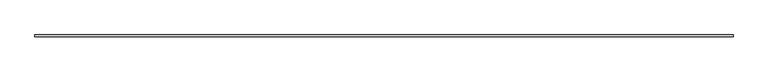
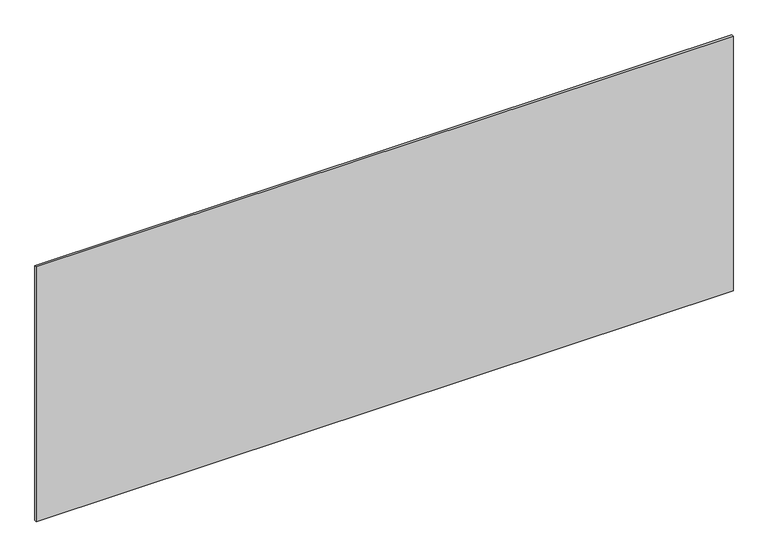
"""IFC4 building model written with IfcOpenShell, lengths in millimetres: plate geometry, システム パネル : 標準."""

from ifc_helpers import new_model, si_unit, origin, origin_with_axes, place, context, project, spatial, polyline, outline, extrude, source, transform, mapped, element, save


def plate_d77b17ee(model_context):
    return source(origin(), model_context, "Body", "SweptSolid", [
        extrude(outline(polyline([(1715.0, -5.0), (-1715.0, -5.0), (-1715.0, 5.0), (1715.0, 5.0), (1715.0, -5.0)])), origin_with_axes(), (0.0, 0.0, 1.0), 1325.4316357),
    ])


if __name__ == "__main__":
    model = new_model("IFC4")
    model_context = context("Model", 3, world=origin())
    ifc_project = project(units=[si_unit("LENGTHUNIT", "METRE", prefix="MILLI")], contexts=[model_context])
    site = spatial("IfcSite", under=ifc_project)
    building = spatial("IfcBuilding", under=site)
    placement = place(None, origin())
    plate_shape = plate_d77b17ee(model_context)
    element("IfcPlate", 1, ObjectType="システム パネル : 標準", at=placement, inside=building, context=model_context, shape_type="MappedRepresentation", body=[
        mapped(plate_shape, transform((0.0, 0.0, 0.0), x_axis=(1.0, 0.0, 0.0), y_axis=(0.0, 1.0, 0.0), z_axis=(0.0, 0.0, 1.0))),
    ])
    save(model, "model.ifc")
